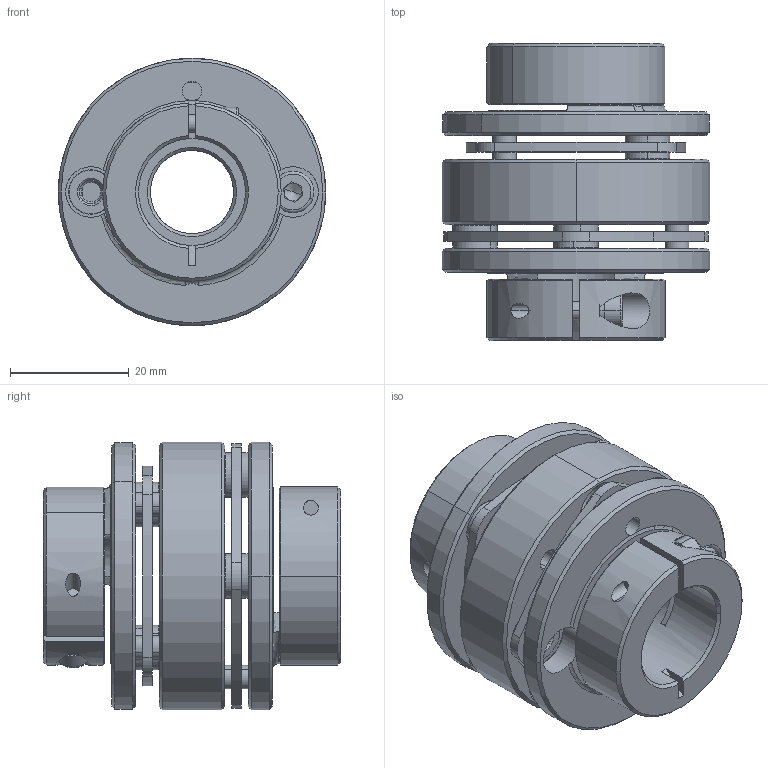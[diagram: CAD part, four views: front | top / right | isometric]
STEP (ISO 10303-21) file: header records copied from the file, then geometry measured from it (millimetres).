
FILE_DESCRIPTION (( 'STEP AP203' ), '1' );
FILE_NAME ('LE2-B-D45L50-14-18.STEP', '2021-11-01T06:51:12', ( '' ), ( '' ), 'SwSTEP 2.0', 'SolidWorks 2018', '' );
FILE_SCHEMA (( 'CONFIG_CONTROL_DESIGN' ));
Length unit declared in the file: millimetre
Products named in the file (1): LE2-B-D45L50-14-18
Bounding box: 45 x 50 x 45 mm (x, y, z)
Volume: 34151.6 mm3; surface area: 23074.6 mm2
Topology: 1 solids, 5 shells, 498 faces, 1200 edges, 736 vertices
Faces by surface type: cylinder 182, cone 154, plane 142, torus 18, bspline 2
Entity records: 15025 total; most frequent: CARTESIAN_POINT 2871, DIRECTION 2770, ORIENTED_EDGE 2376, EDGE_CURVE 1188, AXIS2_PLACEMENT_3D 1133, VERTEX_POINT 736, CIRCLE 636, EDGE_LOOP 592
